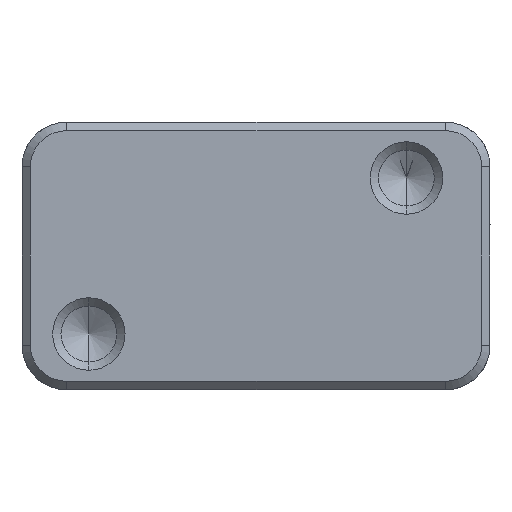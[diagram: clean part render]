
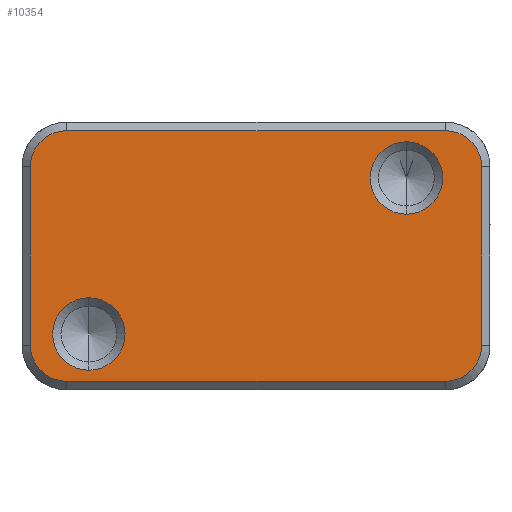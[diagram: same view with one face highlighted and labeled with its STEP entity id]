
A CAD part, front view. The second image highlights one B-rep face of the part: STEP entity #10354.
In plain terms, the highlighted planar face has unit normal (0, -1, 0).
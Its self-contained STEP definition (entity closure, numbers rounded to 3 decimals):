
#46 = AXIS2_PLACEMENT_3D ( 'NONE', #3059, #5433, #4170 ) ;
#84 = DIRECTION ( 'NONE',  ( 1., 0., 0. ) ) ;
#139 = VERTEX_POINT ( 'NONE', #7920 ) ;
#490 = EDGE_LOOP ( 'NONE', ( #2901, #12237 ) ) ;
#765 = CIRCLE ( 'NONE', #4065, 3.25 ) ;
#963 = CARTESIAN_POINT ( 'NONE',  ( 13.5, 0., 6.995 ) ) ;
#985 = VERTEX_POINT ( 'NONE', #6230 ) ;
#1049 = FACE_BOUND ( 'NONE', #3007, .T. ) ;
#1095 = DIRECTION ( 'NONE',  ( -1., 0., 0. ) ) ;
#1102 = ORIENTED_EDGE ( 'NONE', *, *, #10323, .T. ) ;
#1146 = ORIENTED_EDGE ( 'NONE', *, *, #9314, .T. ) ;
#1172 = CARTESIAN_POINT ( 'NONE',  ( -20.25, 0., -12.006 ) ) ;
#1219 = ORIENTED_EDGE ( 'NONE', *, *, #6802, .T. ) ;
#1351 = EDGE_CURVE ( 'NONE', #8596, #8367, #7238, .T. ) ;
#1664 = EDGE_CURVE ( 'NONE', #5457, #5928, #12091, .T. ) ;
#1692 = CARTESIAN_POINT ( 'NONE',  ( -20.25, 0., -8.006 ) ) ;
#1704 = AXIS2_PLACEMENT_3D ( 'NONE', #2368, #9242, #84 ) ;
#1866 = DIRECTION ( 'NONE',  ( -1., 0., 0. ) ) ;
#2056 = CARTESIAN_POINT ( 'NONE',  ( 20.25, 0., 7.995 ) ) ;
#2359 = EDGE_CURVE ( 'NONE', #985, #11144, #5965, .T. ) ;
#2368 = CARTESIAN_POINT ( 'NONE',  ( -21., 0., -12.006 ) ) ;
#2385 = DIRECTION ( 'NONE',  ( 0., 0., -1. ) ) ;
#2417 = CIRCLE ( 'NONE', #6909, 3.25 ) ;
#2734 = DIRECTION ( 'NONE',  ( 0., 1., 0. ) ) ;
#2901 = ORIENTED_EDGE ( 'NONE', *, *, #7802, .T. ) ;
#3007 = EDGE_LOOP ( 'NONE', ( #9497, #14469 ) ) ;
#3046 = CARTESIAN_POINT ( 'NONE',  ( -21., 0., 11.245 ) ) ;
#3059 = CARTESIAN_POINT ( 'NONE',  ( -17., 0., 7.995 ) ) ;
#3214 = DIRECTION ( 'NONE',  ( 0., 0., 1. ) ) ;
#3219 = VERTEX_POINT ( 'NONE', #1692 ) ;
#3413 = DIRECTION ( 'NONE',  ( -1., 0., 0. ) ) ;
#3890 = VERTEX_POINT ( 'NONE', #6391 ) ;
#4065 = AXIS2_PLACEMENT_3D ( 'NONE', #6126, #11528, #12567 ) ;
#4151 = CARTESIAN_POINT ( 'NONE',  ( -20.25, 0., 7.995 ) ) ;
#4170 = DIRECTION ( 'NONE',  ( -1., 0., 0. ) ) ;
#4249 = VERTEX_POINT ( 'NONE', #4151 ) ;
#4453 = DIRECTION ( 'NONE',  ( 0., 1., 0. ) ) ;
#4743 = DIRECTION ( 'NONE',  ( 0., 1., 0. ) ) ;
#4781 = ORIENTED_EDGE ( 'NONE', *, *, #13601, .F. ) ;
#4893 = CARTESIAN_POINT ( 'NONE',  ( -15., 0., -3.755 ) ) ;
#4990 = AXIS2_PLACEMENT_3D ( 'NONE', #11110, #4453, #3413 ) ;
#5241 = AXIS2_PLACEMENT_3D ( 'NONE', #7863, #9114, #2385 ) ;
#5271 = CARTESIAN_POINT ( 'NONE',  ( -17., 0., -11.256 ) ) ;
#5368 = VECTOR ( 'NONE', #3214, 1000. ) ;
#5433 = DIRECTION ( 'NONE',  ( 0., -1., 0. ) ) ;
#5457 = VERTEX_POINT ( 'NONE', #9390 ) ;
#5492 = CIRCLE ( 'NONE', #46, 3.25 ) ;
#5518 = CARTESIAN_POINT ( 'NONE',  ( 20.25, 0., -12.006 ) ) ;
#5621 = ORIENTED_EDGE ( 'NONE', *, *, #12468, .F. ) ;
#5754 = LINE ( 'NONE', #1172, #13329 ) ;
#5849 = DIRECTION ( 'NONE',  ( 0., 0., 1. ) ) ;
#5928 = VERTEX_POINT ( 'NONE', #2056 ) ;
#5965 = CIRCLE ( 'NONE', #14223, 3.25 ) ;
#6069 = DIRECTION ( 'NONE',  ( 0., 0., 1. ) ) ;
#6126 = CARTESIAN_POINT ( 'NONE',  ( 13.5, 0., 6.995 ) ) ;
#6128 = CARTESIAN_POINT ( 'NONE',  ( -15., 0., -10.255 ) ) ;
#6189 = CIRCLE ( 'NONE', #5241, 3.25 ) ;
#6230 = CARTESIAN_POINT ( 'NONE',  ( 13.5, 0., 10.245 ) ) ;
#6391 = CARTESIAN_POINT ( 'NONE',  ( 17., 0., -11.256 ) ) ;
#6409 = ORIENTED_EDGE ( 'NONE', *, *, #8213, .T. ) ;
#6802 = EDGE_CURVE ( 'NONE', #4249, #3219, #5754, .T. ) ;
#6813 = PLANE ( 'NONE',  #1704 ) ;
#6909 = AXIS2_PLACEMENT_3D ( 'NONE', #11257, #13536, #5849 ) ;
#7170 = CARTESIAN_POINT ( 'NONE',  ( -15., 0., -7.005 ) ) ;
#7238 = CIRCLE ( 'NONE', #10551, 3.25 ) ;
#7614 = DIRECTION ( 'NONE',  ( 0., 1., 0. ) ) ;
#7769 = FACE_BOUND ( 'NONE', #490, .T. ) ;
#7791 = ORIENTED_EDGE ( 'NONE', *, *, #1664, .T. ) ;
#7802 = EDGE_CURVE ( 'NONE', #11144, #985, #765, .T. ) ;
#7863 = CARTESIAN_POINT ( 'NONE',  ( -15., 0., -7.005 ) ) ;
#7920 = CARTESIAN_POINT ( 'NONE',  ( 17., 0., 11.245 ) ) ;
#8081 = ORIENTED_EDGE ( 'NONE', *, *, #12820, .F. ) ;
#8213 = EDGE_CURVE ( 'NONE', #10192, #4249, #5492, .T. ) ;
#8350 = CARTESIAN_POINT ( 'NONE',  ( -17., 0., -8.006 ) ) ;
#8367 = VERTEX_POINT ( 'NONE', #4893 ) ;
#8596 = VERTEX_POINT ( 'NONE', #6128 ) ;
#9001 = CIRCLE ( 'NONE', #4990, 3.25 ) ;
#9114 = DIRECTION ( 'NONE',  ( 0., 1., 0. ) ) ;
#9242 = DIRECTION ( 'NONE',  ( 0., -1., 0. ) ) ;
#9314 = EDGE_CURVE ( 'NONE', #5928, #139, #2417, .T. ) ;
#9390 = CARTESIAN_POINT ( 'NONE',  ( 20.25, 0., -8.006 ) ) ;
#9497 = ORIENTED_EDGE ( 'NONE', *, *, #1351, .T. ) ;
#9777 = LINE ( 'NONE', #3046, #13971 ) ;
#9926 = EDGE_LOOP ( 'NONE', ( #6409, #1219, #5621, #8081, #4781, #7791, #1146, #1102 ) ) ;
#10192 = VERTEX_POINT ( 'NONE', #12880 ) ;
#10323 = EDGE_CURVE ( 'NONE', #139, #10192, #9777, .T. ) ;
#10338 = DIRECTION ( 'NONE',  ( 0., 0., -1. ) ) ;
#10354 = ADVANCED_FACE ( 'NONE', ( #7769, #11182, #1049 ), #6813, .T. ) ;
#10551 = AXIS2_PLACEMENT_3D ( 'NONE', #7170, #2734, #13824 ) ;
#11022 = CARTESIAN_POINT ( 'NONE',  ( -21., 0., -11.256 ) ) ;
#11024 = DIRECTION ( 'NONE',  ( 0., 0., -1. ) ) ;
#11110 = CARTESIAN_POINT ( 'NONE',  ( 17., 0., -8.006 ) ) ;
#11144 = VERTEX_POINT ( 'NONE', #12898 ) ;
#11182 = FACE_OUTER_BOUND ( 'NONE', #9926, .T. ) ;
#11257 = CARTESIAN_POINT ( 'NONE',  ( 17., 0., 7.995 ) ) ;
#11304 = EDGE_CURVE ( 'NONE', #8367, #8596, #6189, .T. ) ;
#11414 = AXIS2_PLACEMENT_3D ( 'NONE', #8350, #4743, #6069 ) ;
#11528 = DIRECTION ( 'NONE',  ( 0., 1., 0. ) ) ;
#12091 = LINE ( 'NONE', #5518, #5368 ) ;
#12237 = ORIENTED_EDGE ( 'NONE', *, *, #2359, .T. ) ;
#12468 = EDGE_CURVE ( 'NONE', #13517, #3219, #13063, .T. ) ;
#12567 = DIRECTION ( 'NONE',  ( 0., 0., -1. ) ) ;
#12820 = EDGE_CURVE ( 'NONE', #3890, #13517, #13581, .T. ) ;
#12880 = CARTESIAN_POINT ( 'NONE',  ( -17., 0., 11.245 ) ) ;
#12898 = CARTESIAN_POINT ( 'NONE',  ( 13.5, 0., 3.745 ) ) ;
#13063 = CIRCLE ( 'NONE', #11414, 3.25 ) ;
#13329 = VECTOR ( 'NONE', #10338, 1000. ) ;
#13517 = VERTEX_POINT ( 'NONE', #5271 ) ;
#13536 = DIRECTION ( 'NONE',  ( 0., -1., 0. ) ) ;
#13538 = VECTOR ( 'NONE', #1095, 1000. ) ;
#13581 = LINE ( 'NONE', #11022, #13538 ) ;
#13601 = EDGE_CURVE ( 'NONE', #5457, #3890, #9001, .T. ) ;
#13824 = DIRECTION ( 'NONE',  ( 0., 0., -1. ) ) ;
#13971 = VECTOR ( 'NONE', #1866, 1000. ) ;
#14223 = AXIS2_PLACEMENT_3D ( 'NONE', #963, #7614, #11024 ) ;
#14469 = ORIENTED_EDGE ( 'NONE', *, *, #11304, .T. ) ;
